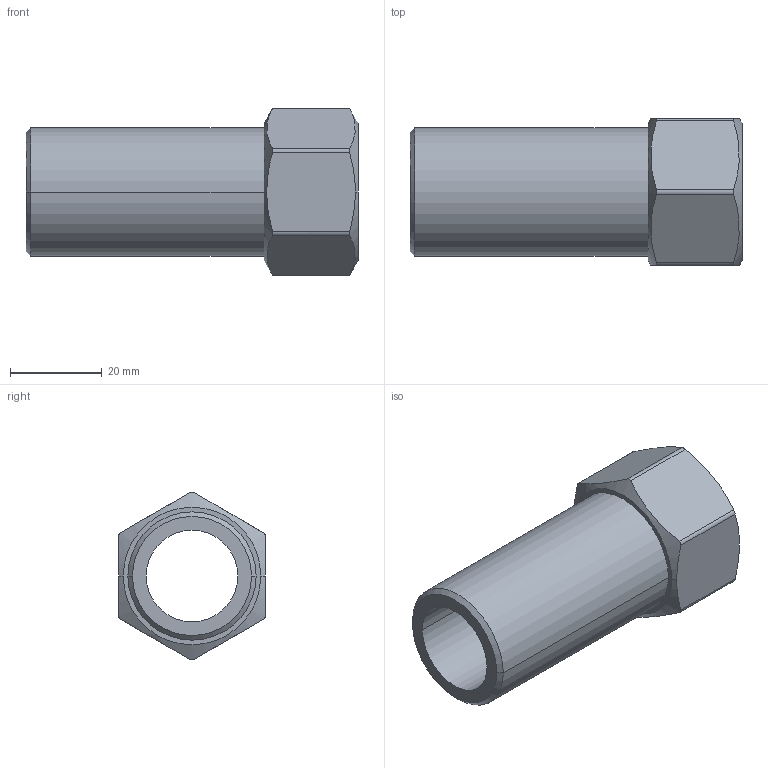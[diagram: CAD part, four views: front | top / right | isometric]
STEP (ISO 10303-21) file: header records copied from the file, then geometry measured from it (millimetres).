
FILE_DESCRIPTION (( 'STEP AP214' ), '1' );
FILE_NAME ('R237.028.034.STEP', '2019-10-24T14:34:59', ( '' ), ( '' ), 'SwSTEP 2.0', 'SolidWorks 2018', '' );
FILE_SCHEMA (( 'AUTOMOTIVE_DESIGN' ));
Length unit declared in the file: millimetre
Products named in the file (1): R237.028.034
Bounding box: 72.5 x 32 x 36.64 mm (x, y, z)
Volume: 24583 mm3; surface area: 12536.4 mm2
Topology: 1 solids, 1 shells, 28 faces, 70 edges, 46 vertices
Faces by surface type: cylinder 12, plane 10, cone 6
Entity records: 1044 total; most frequent: CARTESIAN_POINT 349, ORIENTED_EDGE 140, DIRECTION 118, EDGE_CURVE 70, AXIS2_PLACEMENT_3D 47, VERTEX_POINT 46, EDGE_LOOP 32, FACE_OUTER_BOUND 28
